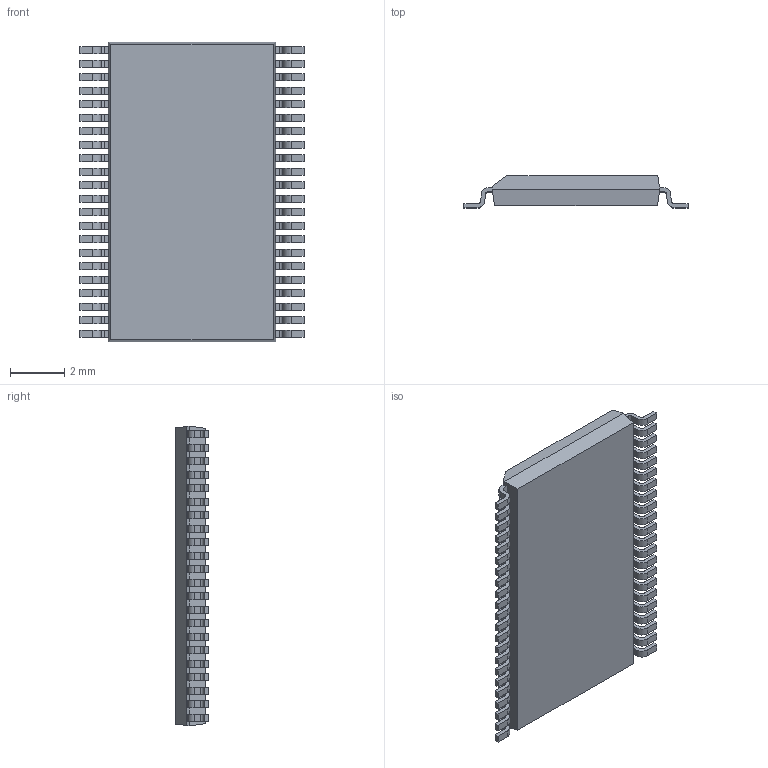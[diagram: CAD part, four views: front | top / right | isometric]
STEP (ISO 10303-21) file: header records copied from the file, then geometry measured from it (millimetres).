
FILE_DESCRIPTION (( 'STEP AP214' ), '1' );
FILE_NAME ('TSSOP50P810X120-44_MO-153.EC-1.STEP', '2014-10-29T08:32:36', ( 'Tester2' ), ( '' ), 'SwSTEP 2.0', 'SolidWorks 2012', '' );
FILE_SCHEMA (( 'AUTOMOTIVE_DESIGN' ));
Length unit declared in the file: millimetre
Products named in the file (1): TSSOP50P810X120-44_MO-153.EC-1
Bounding box: 8.3 x 1.2 x 11.1 mm (x, y, z)
Volume: 75.8 mm3; surface area: 222.3 mm2
Topology: 1 solids, 1 shells, 586 faces, 1745 edges, 1162 vertices
Faces by surface type: plane 408, cylinder 178
Entity records: 25952 total; most frequent: CARTESIAN_POINT 3494, ORIENTED_EDGE 3490, DIRECTION 3275, EDGE_CURVE 1745, LINE 1389, VECTOR 1389, VERTEX_POINT 1162, AXIS2_PLACEMENT_3D 943
